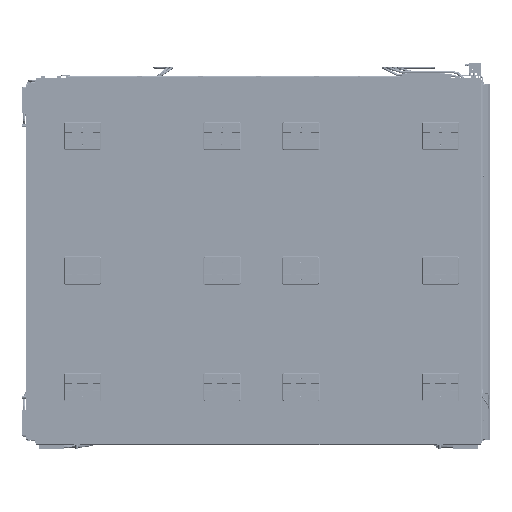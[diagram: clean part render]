
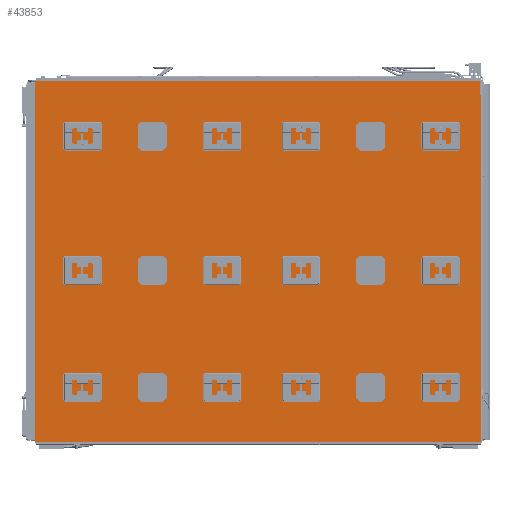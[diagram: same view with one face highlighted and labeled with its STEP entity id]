
A CAD part, front view. The second image highlights one B-rep face of the part: STEP entity #43853.
In plain terms, the highlighted planar face has unit normal (0, -1, 0).
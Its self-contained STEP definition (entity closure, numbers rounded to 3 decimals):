
#43853=ADVANCED_FACE('',(#65985),#56717,.T.);
#56717=PLANE('',#257994);
#65985=FACE_OUTER_BOUND('',#79270,.T.);
#79270=EDGE_LOOP('',(#111145,#111146,#111147,#111148));
#111145=ORIENTED_EDGE('',*,*,#191220,.T.);
#111146=ORIENTED_EDGE('',*,*,#191216,.T.);
#111147=ORIENTED_EDGE('',*,*,#191221,.F.);
#111148=ORIENTED_EDGE('',*,*,#191222,.T.);
#166062=VERTEX_POINT('',#371238);
#166063=VERTEX_POINT('',#371239);
#166066=VERTEX_POINT('',#371247);
#166067=VERTEX_POINT('',#371249);
#191216=EDGE_CURVE('',#166062,#166063,#220217,.T.);
#191220=EDGE_CURVE('',#166066,#166062,#220221,.T.);
#191221=EDGE_CURVE('',#166067,#166063,#220222,.T.);
#191222=EDGE_CURVE('',#166067,#166066,#220223,.T.);
#220217=LINE('',#371237,#237495);
#220221=LINE('',#371246,#237499);
#220222=LINE('',#371248,#237500);
#220223=LINE('',#371250,#237501);
#237495=VECTOR('',#291200,1.);
#237499=VECTOR('',#291206,1.);
#237500=VECTOR('',#291207,1.);
#237501=VECTOR('',#291208,1.);
#257994=AXIS2_PLACEMENT_3D('',#371251,#291209,#291210);
#291200=DIRECTION('',(1.,0.,0.));
#291206=DIRECTION('',(0.,0.,-1.));
#291207=DIRECTION('',(0.,0.,-1.));
#291208=DIRECTION('',(-1.,0.,0.));
#291209=DIRECTION('',(0.,-1.,0.));
#291210=DIRECTION('',(0.,0.,1.));
#371237=CARTESIAN_POINT('',(-205.8,6052.5,4090.));
#371238=CARTESIAN_POINT('',(-1738.8,6052.5,4090.));
#371239=CARTESIAN_POINT('',(1327.2,6052.5,4090.));
#371246=CARTESIAN_POINT('',(-1738.8,6052.5,6577.));
#371247=CARTESIAN_POINT('',(-1738.8,6052.5,6577.));
#371248=CARTESIAN_POINT('',(1327.2,6052.5,6577.));
#371249=CARTESIAN_POINT('',(1327.2,6052.5,6577.));
#371250=CARTESIAN_POINT('',(-205.8,6052.5,6577.));
#371251=CARTESIAN_POINT('',(-205.8,6052.5,6577.));
